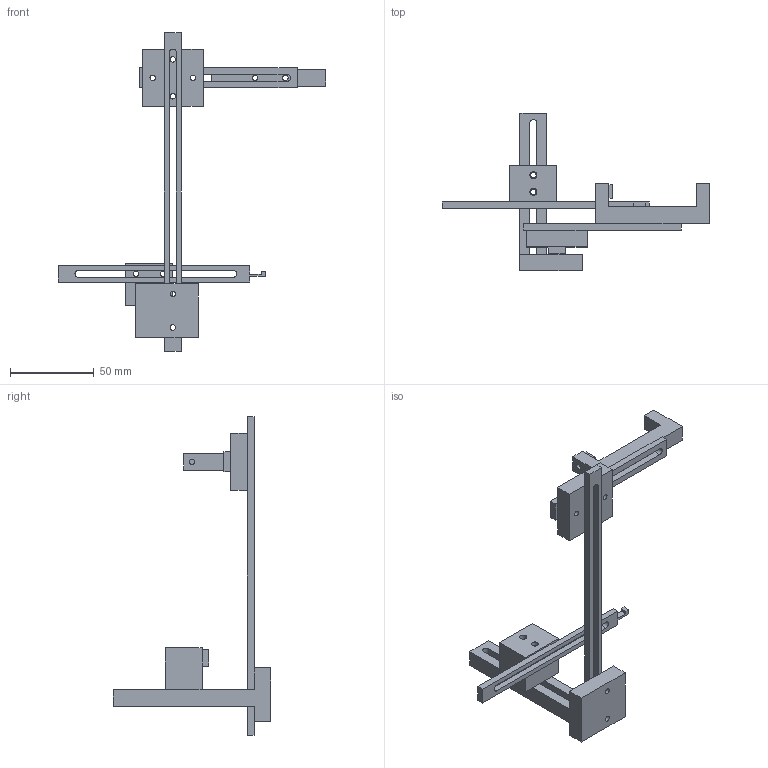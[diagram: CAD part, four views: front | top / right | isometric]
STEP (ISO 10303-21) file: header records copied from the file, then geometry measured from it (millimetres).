
FILE_DESCRIPTION(('Open CASCADE Model'),'2;1');
FILE_NAME('Open CASCADE Shape Model','2026-11-08T07:33:13',('Author'),( 'Open CASCADE'),'Open CASCADE STEP processor 7.8','Open CASCADE 7.8' ,'Unknown');
FILE_SCHEMA(('AUTOMOTIVE_DESIGN { 1 0 10303 214 1 1 1 1 }'));
Length unit declared in the file: millimetre
Products named in the file (9): L_printed_holder; 01_side_clamp_S50; 02_protective_pad; 03_horizontal_bar; 04_corner; 05_vertical_rail_190; 06_ribbed_depth_carriage; 07_cross_slide_carriage; 08_sliding_target_flag
Assembly tree (8 placements, depth 2):
  L_printed_holder
    01_side_clamp_S50
    02_protective_pad
    03_horizontal_bar
    04_corner
    05_vertical_rail_190
    06_ribbed_depth_carriage
    07_cross_slide_carriage
    08_sliding_target_flag
Bounding box: 159.2 x 94 x 190 mm (x, y, z)
Volume: 63709.4 mm3; surface area: 34541.6 mm2
Topology: 8 solids, 8 shells, 107 faces, 264 edges, 176 vertices
Faces by surface type: plane 81, cylinder 26
Full cylindrical faces by diameter (mm): 3.242 x13, 4.2 x5
Entity records: 7018 total; most frequent: CARTESIAN_POINT 1396, DIRECTION 1024, LINE 688, VECTOR 688, ORIENTED_EDGE 528, PCURVE 528, DEFINITIONAL_REPRESENTATION 528, EDGE_CURVE 264
